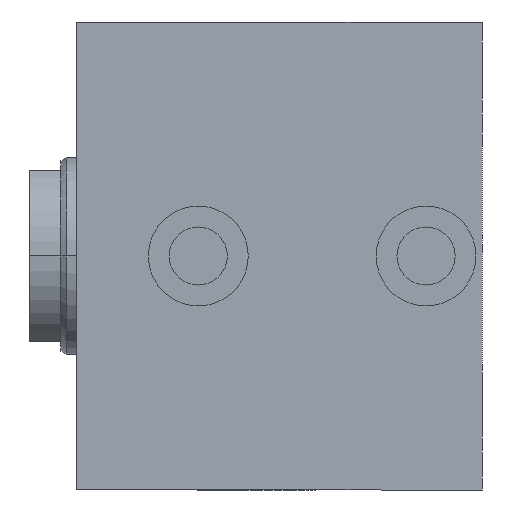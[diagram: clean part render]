
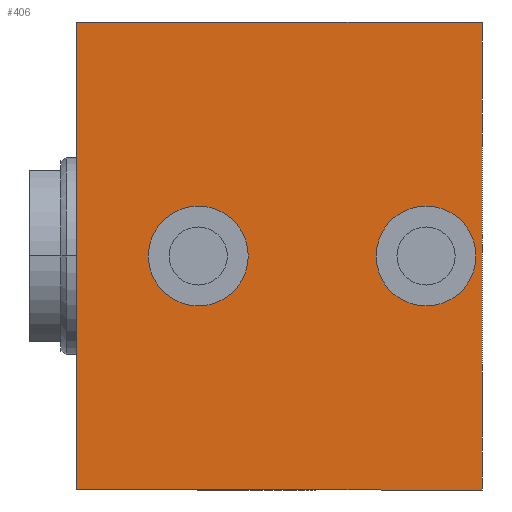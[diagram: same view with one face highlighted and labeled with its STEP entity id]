
A CAD part, left-side view. The second image highlights one B-rep face of the part: STEP entity #406.
In plain terms, the highlighted planar face has unit normal (-1, 0, 0).
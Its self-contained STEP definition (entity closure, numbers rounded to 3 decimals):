
#55 = EDGE_CURVE ( 'NONE', #272, #2512, #2820, .T. ) ;
#59 = ORIENTED_EDGE ( 'NONE', *, *, #790, .F. ) ;
#89 = CARTESIAN_POINT ( 'NONE',  ( -100., 130., 75. ) ) ;
#118 = DIRECTION ( 'NONE',  ( 0., 0., 1. ) ) ;
#119 = EDGE_CURVE ( 'NONE', #2512, #272, #2568, .T. ) ;
#144 = EDGE_LOOP ( 'NONE', ( #1204, #3425 ) ) ;
#174 = AXIS2_PLACEMENT_3D ( 'NONE', #3508, #2070, #1652 ) ;
#206 = CARTESIAN_POINT ( 'NONE',  ( -100., 18., 0. ) ) ;
#217 = VECTOR ( 'NONE', #1349, 1000. ) ;
#218 = VERTEX_POINT ( 'NONE', #2271 ) ;
#223 = AXIS2_PLACEMENT_3D ( 'NONE', #1892, #2804, #2731 ) ;
#232 = DIRECTION ( 'NONE',  ( 0., 0., 1. ) ) ;
#272 = VERTEX_POINT ( 'NONE', #2100 ) ;
#317 = VECTOR ( 'NONE', #2326, 1000. ) ;
#406 = ADVANCED_FACE ( 'NONE', ( #3346, #1060, #1805 ), #2125, .F. ) ;
#444 = ORIENTED_EDGE ( 'NONE', *, *, #3326, .T. ) ;
#460 = ORIENTED_EDGE ( 'NONE', *, *, #55, .F. ) ;
#516 = EDGE_CURVE ( 'NONE', #218, #3317, #3565, .T. ) ;
#790 = EDGE_CURVE ( 'NONE', #3386, #3485, #2634, .T. ) ;
#927 = ORIENTED_EDGE ( 'NONE', *, *, #2536, .F. ) ;
#1060 = FACE_BOUND ( 'NONE', #144, .T. ) ;
#1077 = VERTEX_POINT ( 'NONE', #2282 ) ;
#1175 = VECTOR ( 'NONE', #3590, 1000. ) ;
#1204 = ORIENTED_EDGE ( 'NONE', *, *, #516, .F. ) ;
#1216 = CARTESIAN_POINT ( 'NONE',  ( -100., 90., -75. ) ) ;
#1250 = CARTESIAN_POINT ( 'NONE',  ( -100., 130., -75. ) ) ;
#1349 = DIRECTION ( 'NONE',  ( 0., -1., 0. ) ) ;
#1498 = CARTESIAN_POINT ( 'NONE',  ( -100., 90., -75. ) ) ;
#1524 = CARTESIAN_POINT ( 'NONE',  ( -100., 91., -16. ) ) ;
#1601 = ORIENTED_EDGE ( 'NONE', *, *, #1745, .T. ) ;
#1652 = DIRECTION ( 'NONE',  ( 0., 0., 1. ) ) ;
#1745 = EDGE_CURVE ( 'NONE', #3386, #1077, #3218, .T. ) ;
#1805 = FACE_OUTER_BOUND ( 'NONE', #2903, .T. ) ;
#1838 = AXIS2_PLACEMENT_3D ( 'NONE', #1216, #3161, #2495 ) ;
#1861 = CARTESIAN_POINT ( 'NONE',  ( -100., 130., -75. ) ) ;
#1878 = DIRECTION ( 'NONE',  ( -1., 0., 0. ) ) ;
#1892 = CARTESIAN_POINT ( 'NONE',  ( -100., 91., 0. ) ) ;
#1914 = LINE ( 'NONE', #2486, #1175 ) ;
#1915 = VECTOR ( 'NONE', #118, 1000. ) ;
#1948 = CARTESIAN_POINT ( 'NONE',  ( -100., 18., -16. ) ) ;
#2070 = DIRECTION ( 'NONE',  ( -1., 0., 0. ) ) ;
#2074 = CIRCLE ( 'NONE', #2126, 16. ) ;
#2100 = CARTESIAN_POINT ( 'NONE',  ( -100., 18., 16. ) ) ;
#2125 = PLANE ( 'NONE',  #1838 ) ;
#2126 = AXIS2_PLACEMENT_3D ( 'NONE', #3580, #2746, #232 ) ;
#2271 = CARTESIAN_POINT ( 'NONE',  ( -100., 91., 16. ) ) ;
#2282 = CARTESIAN_POINT ( 'NONE',  ( -100., 0., -75. ) ) ;
#2318 = CARTESIAN_POINT ( 'NONE',  ( -100., 0., -75. ) ) ;
#2326 = DIRECTION ( 'NONE',  ( 0., 0., 1. ) ) ;
#2454 = EDGE_CURVE ( 'NONE', #3317, #218, #2074, .T. ) ;
#2486 = CARTESIAN_POINT ( 'NONE',  ( -100., 90., 75. ) ) ;
#2495 = DIRECTION ( 'NONE',  ( 0., 0., -1. ) ) ;
#2512 = VERTEX_POINT ( 'NONE', #1948 ) ;
#2536 = EDGE_CURVE ( 'NONE', #3485, #3051, #1914, .T. ) ;
#2568 = CIRCLE ( 'NONE', #174, 16. ) ;
#2634 = LINE ( 'NONE', #1861, #1915 ) ;
#2731 = DIRECTION ( 'NONE',  ( 0., 0., 1. ) ) ;
#2742 = LINE ( 'NONE', #2318, #317 ) ;
#2746 = DIRECTION ( 'NONE',  ( -1., 0., 0. ) ) ;
#2768 = ORIENTED_EDGE ( 'NONE', *, *, #119, .F. ) ;
#2804 = DIRECTION ( 'NONE',  ( -1., 0., 0. ) ) ;
#2820 = CIRCLE ( 'NONE', #3069, 16. ) ;
#2903 = EDGE_LOOP ( 'NONE', ( #444, #927, #59, #1601 ) ) ;
#3051 = VERTEX_POINT ( 'NONE', #3431 ) ;
#3069 = AXIS2_PLACEMENT_3D ( 'NONE', #206, #1878, #3322 ) ;
#3161 = DIRECTION ( 'NONE',  ( 1., 0., 0. ) ) ;
#3218 = LINE ( 'NONE', #1498, #217 ) ;
#3317 = VERTEX_POINT ( 'NONE', #1524 ) ;
#3322 = DIRECTION ( 'NONE',  ( 0., 0., 1. ) ) ;
#3326 = EDGE_CURVE ( 'NONE', #1077, #3051, #2742, .T. ) ;
#3337 = EDGE_LOOP ( 'NONE', ( #460, #2768 ) ) ;
#3346 = FACE_BOUND ( 'NONE', #3337, .T. ) ;
#3386 = VERTEX_POINT ( 'NONE', #1250 ) ;
#3425 = ORIENTED_EDGE ( 'NONE', *, *, #2454, .F. ) ;
#3431 = CARTESIAN_POINT ( 'NONE',  ( -100., 0., 75. ) ) ;
#3485 = VERTEX_POINT ( 'NONE', #89 ) ;
#3508 = CARTESIAN_POINT ( 'NONE',  ( -100., 18., 0. ) ) ;
#3565 = CIRCLE ( 'NONE', #223, 16. ) ;
#3580 = CARTESIAN_POINT ( 'NONE',  ( -100., 91., 0. ) ) ;
#3590 = DIRECTION ( 'NONE',  ( 0., -1., 0. ) ) ;
